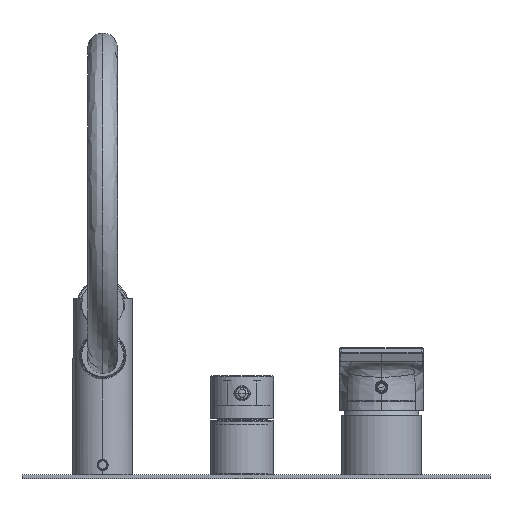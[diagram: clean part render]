
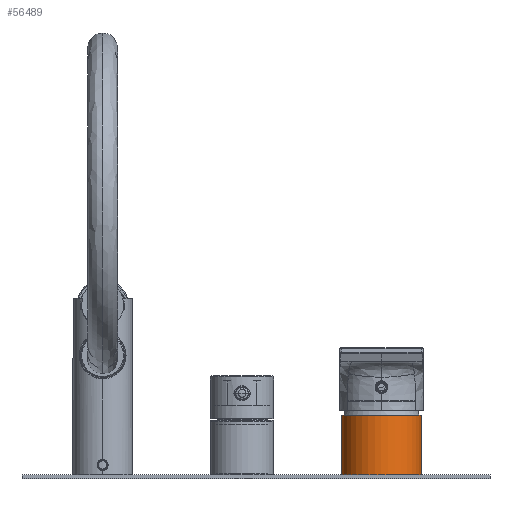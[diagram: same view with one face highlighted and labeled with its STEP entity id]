
A CAD part, front view. The second image highlights one B-rep face of the part: STEP entity #56489.
In plain terms, the highlighted cylindrical face has radius 20 mm (diameter 40 mm), a partial arc.
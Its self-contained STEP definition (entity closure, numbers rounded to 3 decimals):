
#610=CARTESIAN_POINT('',(70.,0.,45.5));
#611=DIRECTION('',(0.,0.,1.));
#612=DIRECTION('',(-1.,0.,0.));
#613=AXIS2_PLACEMENT_3D('',#610,#611,#612);
#630=DIRECTION('',(0.,0.,1.));
#631=VECTOR('',#630,30.);
#632=CARTESIAN_POINT('',(90.,0.,15.5));
#633=LINE('',#632,#631);
#634=DIRECTION('',(0.,0.,1.));
#635=VECTOR('',#634,30.);
#636=CARTESIAN_POINT('',(50.,0.,15.5));
#637=LINE('',#636,#635);
#4998=CARTESIAN_POINT('',(70.,0.,15.5));
#4999=DIRECTION('',(0.,0.,1.));
#5000=DIRECTION('',(-1.,0.,0.));
#5001=AXIS2_PLACEMENT_3D('',#4998,#4999,#5000);
#49563=CARTESIAN_POINT('',(50.,0.,45.5));
#49564=CARTESIAN_POINT('',(90.,0.,45.5));
#49565=VERTEX_POINT('',#49563);
#49566=VERTEX_POINT('',#49564);
#50817=CARTESIAN_POINT('',(50.,0.,15.5));
#50818=CARTESIAN_POINT('',(90.,0.,15.5));
#50819=VERTEX_POINT('',#50817);
#50820=VERTEX_POINT('',#50818);
#56478=CARTESIAN_POINT('',(70.,0.,1.925));
#56479=DIRECTION('',(0.,0.,1.));
#56480=DIRECTION('',(-1.,0.,0.));
#56481=AXIS2_PLACEMENT_3D('',#56478,#56479,#56480);
#56482=CYLINDRICAL_SURFACE('',#56481,20.);
#56483=ORIENTED_EDGE('',*,*,#51306,.F.);
#56484=ORIENTED_EDGE('',*,*,#51280,.T.);
#56485=ORIENTED_EDGE('',*,*,#51260,.T.);
#56486=ORIENTED_EDGE('',*,*,#51277,.F.);
#56487=EDGE_LOOP('',(#56483,#56484,#56485,#56486));
#56488=FACE_OUTER_BOUND('',#56487,.F.);
#56489=ADVANCED_FACE('',(#56488),#56482,.T.);
#614=CIRCLE('',#613,20.);
#5002=CIRCLE('',#5001,20.);
#51260=EDGE_CURVE('',#49565,#49566,#614,.T.);
#51277=EDGE_CURVE('',#50820,#49566,#633,.T.);
#51280=EDGE_CURVE('',#50819,#49565,#637,.T.);
#51306=EDGE_CURVE('',#50819,#50820,#5002,.T.);
